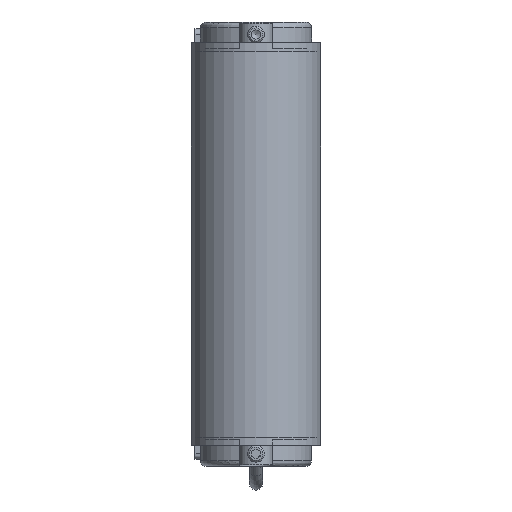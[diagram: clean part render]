
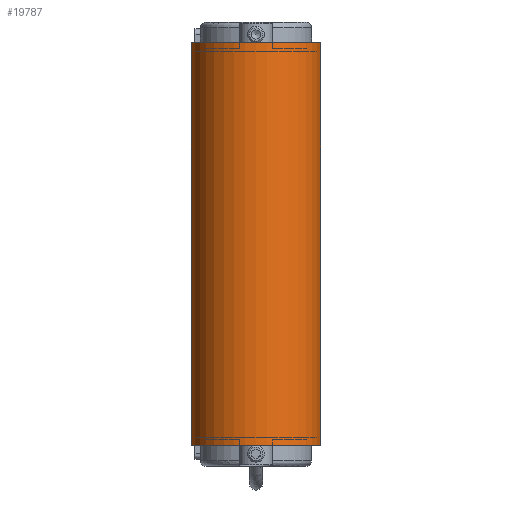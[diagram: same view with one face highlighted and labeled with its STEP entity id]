
A CAD part, front view. The second image highlights one B-rep face of the part: STEP entity #19787.
In plain terms, the highlighted cylindrical face has radius 23.3 mm (diameter 46.6 mm), a partial arc.
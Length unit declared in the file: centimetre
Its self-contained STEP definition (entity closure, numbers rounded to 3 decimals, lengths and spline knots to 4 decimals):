
#557=CYLINDRICAL_SURFACE('',#21239,2.33);
#1306=CIRCLE('',#21234,2.33);
#1309=CIRCLE('',#21240,2.33);
#2125=FACE_OUTER_BOUND('',#3190,.T.);
#3190=EDGE_LOOP('',(#13653,#13654,#13655,#13656));
#4548=LINE('',#29510,#6116);
#4549=LINE('',#29514,#6117);
#6116=VECTOR('',#24203,1.);
#6117=VECTOR('',#24208,1.);
#7924=VERTEX_POINT('',#29493);
#7925=VERTEX_POINT('',#29494);
#7930=VERTEX_POINT('',#29508);
#7931=VERTEX_POINT('',#29512);
#10143=EDGE_CURVE('',#7924,#7925,#1306,.T.);
#10151=EDGE_CURVE('',#7930,#7925,#4548,.T.);
#10152=EDGE_CURVE('',#7930,#7931,#1309,.T.);
#10153=EDGE_CURVE('',#7924,#7931,#4549,.T.);
#13653=ORIENTED_EDGE('',*,*,#10152,.T.);
#13654=ORIENTED_EDGE('',*,*,#10153,.F.);
#13655=ORIENTED_EDGE('',*,*,#10143,.T.);
#13656=ORIENTED_EDGE('',*,*,#10151,.F.);
#19787=ADVANCED_FACE('',(#2125),#557,.T.);
#21234=AXIS2_PLACEMENT_3D('',#29495,#24188,#24189);
#21239=AXIS2_PLACEMENT_3D('',#29511,#24204,#24205);
#21240=AXIS2_PLACEMENT_3D('',#29513,#24206,#24207);
#24188=DIRECTION('center_axis',(0.,0.,
-1.));
#24189=DIRECTION('ref_axis',(-1.,0.,0.));
#24203=DIRECTION('',(0.,0.,1.));
#24204=DIRECTION('center_axis',(0.,0.,
-1.));
#24205=DIRECTION('ref_axis',(-1.,0.,0.));
#24206=DIRECTION('center_axis',(0.,0.,
1.));
#24207=DIRECTION('ref_axis',(-1.,0.,0.));
#24208=DIRECTION('',(0.,0.,-1.));
#29493=CARTESIAN_POINT('',(2.33,-147.,7.25));
#29494=CARTESIAN_POINT('',(-2.33,-147.,7.25));
#29495=CARTESIAN_POINT('Origin',(0.,-147.,7.25));
#29508=CARTESIAN_POINT('',(-2.33,-147.,-7.25));
#29510=CARTESIAN_POINT('',(-2.33,-147.,0.));
#29511=CARTESIAN_POINT('Origin',(0.,-147.,0.));
#29512=CARTESIAN_POINT('',(2.33,-147.,-7.25));
#29513=CARTESIAN_POINT('Origin',(0.,-147.,-7.25));
#29514=CARTESIAN_POINT('',(2.33,-147.,0.));
